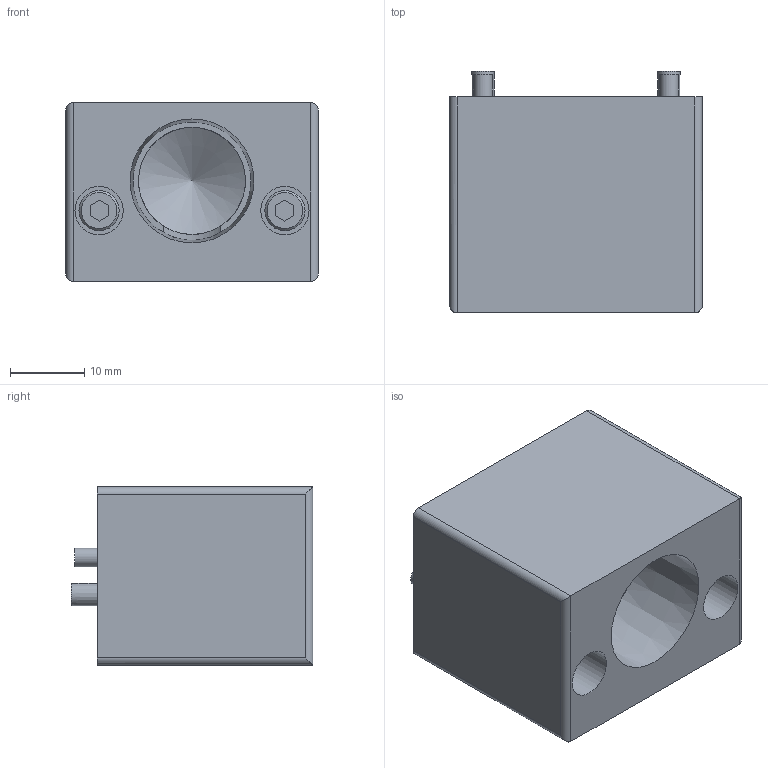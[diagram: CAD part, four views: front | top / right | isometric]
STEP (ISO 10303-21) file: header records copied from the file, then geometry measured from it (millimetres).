
FILE_DESCRIPTION(('STEP AP214'),'1');
FILE_NAME('KHB-7_25RS-EP101_ver1.stp','2026-04-27T01:17:27',(' '),(' '),'Spatial InterOp 3D',' ',' ');
FILE_SCHEMA(('AUTOMOTIVE_DESIGN { 1 0 10303 214 1 1 1 1 }'));
Length unit declared in the file: millimetre
Products named in the file (1): KHB-7~25RS-EP101_ver1
Bounding box: 34 x 32.5 x 24 mm (x, y, z)
Volume: 18033.7 mm3; surface area: 7485.9 mm2
Topology: 1 solids, 3 shells, 61 faces, 129 edges, 85 vertices
Faces by surface type: plane 35, cylinder 20, cone 6
Full cylindrical faces by diameter (mm): 2.5 x4, 3 x2, 3.5 x2, 5.41 x2, 6.5 x2, 12 x1, 14.4 x1
Entity records: 2017 total; most frequent: CARTESIAN_POINT 300, DIRECTION 262, ORIENTED_EDGE 198, AXIS2_PLACEMENT_3D 103, EDGE_CURVE 99, EDGE_LOOP 94, VERTEX_POINT 76, FACE_OUTER_BOUND 75
